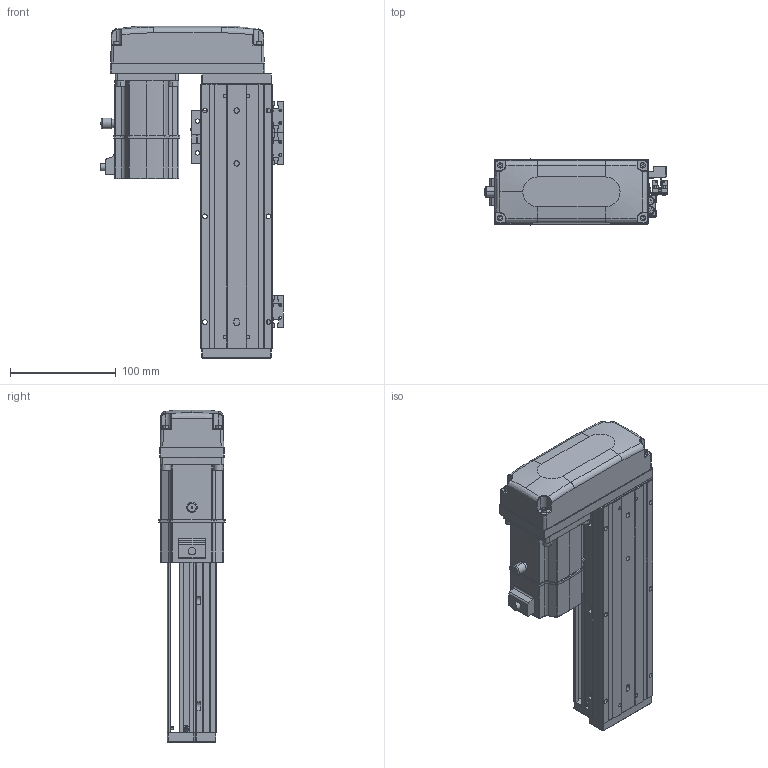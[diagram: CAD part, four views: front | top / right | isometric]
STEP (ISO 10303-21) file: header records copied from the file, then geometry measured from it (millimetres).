
FILE_DESCRIPTION (( 'STEP AP203' ), '1' );
FILE_NAME ('KTHA60-150-BR-M20-C4L.step', '2022-12-16T01:38:27', ( '微软用户' ), ( '微软中国' ), 'SwSTEP 2.0', 'SolidWorks 2020', '' );
FILE_SCHEMA (( 'CONFIG_CONTROL_DESIGN' ));
Length unit declared in the file: millimetre
Products named in the file (17): EE_SX911P_R; KTHA60-002; CTHA60-017; BTH80-026; KTHA60-001_250; CTHA60-021; CTHA60-006-2_CTHA60-006-2; KTHA60-004; GBT 70.1-M4×16; _X2_4E0983F1_X0_200W_1; KTHA60-005; GBT77-2000M3-3; KTHA60-150-BR-M20-C4L; GB¨uT 70.2-M3¡Á5_M3¡Á6; GBT 70.1-M3℅6; GBT 70.3-M3℅6; CTHA60-016
Assembly tree (51 placements, depth 2):
  KTHA60-150-BR-M20-C4L
    KTHA60-001_250
    KTHA60-004
    KTHA60-005
    GB¨uT 70.2-M3¡Á5_M3¡Á6  x6
    GBT 70.3-M3℅6  x4
    EE_SX911P_R  x3
    CTHA60-017  x3
    CTHA60-021  x2
    GBT 70.1-M4×16  x8
    GBT77-2000M3-3  x6
    GBT 70.1-M3℅6  x10
    CTHA60-016  x2
    KTHA60-002
    BTH80-026
    CTHA60-006-2_CTHA60-006-2
    _X2_4E0983F1_X0_200W_1
Bounding box: 173.02 x 62.42 x 314 mm (x, y, z)
Volume: 947958.2 mm3; surface area: 249586 mm2
Topology: 54 solids, 54 shells, 2368 faces, 5605 edges, 3442 vertices
Faces by surface type: plane 1249, cylinder 626, cone 276, bspline 109, torus 92, sphere 16
Entity records: 42948 total; most frequent: CARTESIAN_POINT 10146, DIRECTION 6258, ORIENTED_EDGE 6258, EDGE_CURVE 3129, AXIS2_PLACEMENT_3D 2173, VERTEX_POINT 1951, LINE 1912, VECTOR 1912
